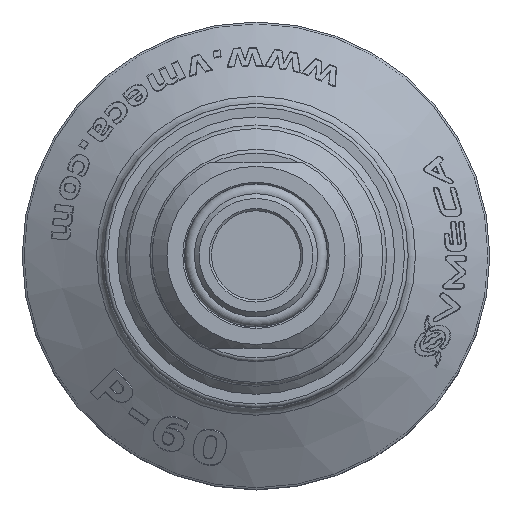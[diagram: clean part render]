
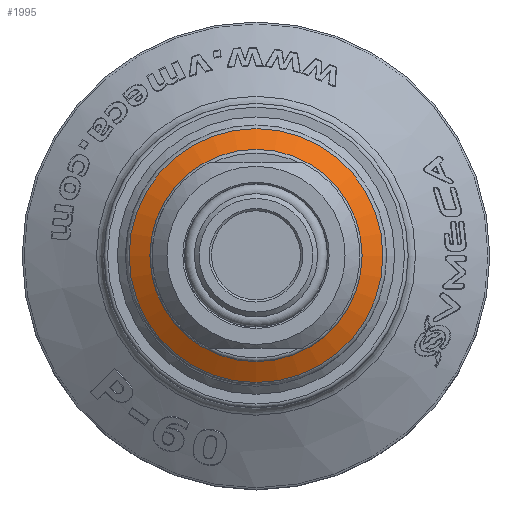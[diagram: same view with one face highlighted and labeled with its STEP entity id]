
A CAD part, top view. The second image highlights one B-rep face of the part: STEP entity #1995.
In plain terms, the highlighted conical face has half-angle 59.976 degrees and reference radius 13.9 mm.
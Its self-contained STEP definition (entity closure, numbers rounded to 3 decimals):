
#1995 = ADVANCED_FACE( '', ( #4522, #4523 ), #4524, .T. );
#4522 = FACE_OUTER_BOUND( '', #11378, .T. );
#4523 = FACE_BOUND( '', #11379, .T. );
#4524 = CONICAL_SURFACE( '', #11380, 13.9, 1.047 );
#11378 = EDGE_LOOP( '', ( #17174 ) );
#11379 = EDGE_LOOP( '', ( #17175 ) );
#11380 = AXIS2_PLACEMENT_3D( '', #17176, #17177, #17178 );
#17174 = ORIENTED_EDGE( '', *, *, #20698, .T. );
#17175 = ORIENTED_EDGE( '', *, *, #20699, .F. );
#17176 = CARTESIAN_POINT( '', ( 0., 0., 10.676 ) );
#17177 = DIRECTION( '', ( 0., 0., -1. ) );
#17178 = DIRECTION( '', ( -1., 0., 0. ) );
#20698 = EDGE_CURVE( '', #24074, #24074, #24075, .T. );
#20699 = EDGE_CURVE( '', #24076, #24076, #24077, .T. );
#24074 = VERTEX_POINT( '', #33668 );
#24075 = CIRCLE( '', #33669, 17.1 );
#24076 = VERTEX_POINT( '', #33670 );
#24077 = CIRCLE( '', #33671, 13.9 );
#33668 = CARTESIAN_POINT( '', ( 17.1, 0., 8.827 ) );
#33669 = AXIS2_PLACEMENT_3D( '', #35143, #35144, #35145 );
#33670 = CARTESIAN_POINT( '', ( 13.9, 0., 10.676 ) );
#33671 = AXIS2_PLACEMENT_3D( '', #35146, #35147, #35148 );
#35143 = CARTESIAN_POINT( '', ( 0., 0., 8.827 ) );
#35144 = DIRECTION( '', ( 0., 0., 1. ) );
#35145 = DIRECTION( '', ( 1., 0., 0. ) );
#35146 = CARTESIAN_POINT( '', ( 0., 0., 10.676 ) );
#35147 = DIRECTION( '', ( 0., 0., 1. ) );
#35148 = DIRECTION( '', ( 1., 0., 0. ) );
